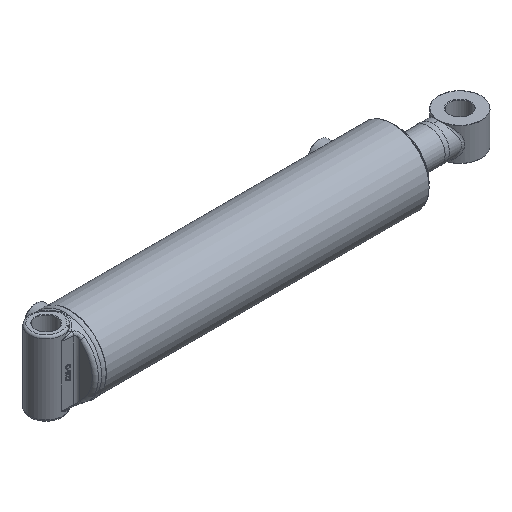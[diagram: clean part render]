
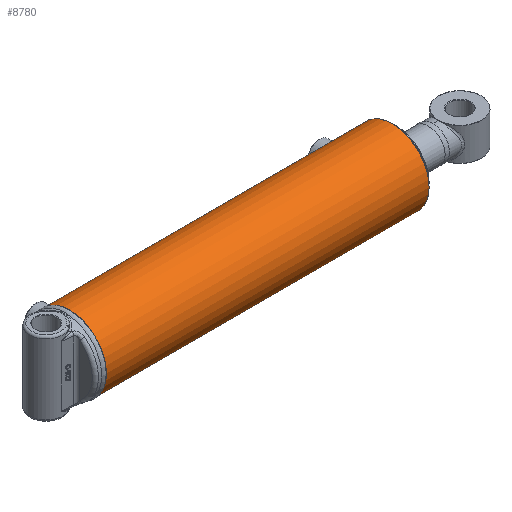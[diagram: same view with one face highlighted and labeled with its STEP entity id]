
A CAD part, isometric view. The second image highlights one B-rep face of the part: STEP entity #8780.
In plain terms, the highlighted cylindrical face has radius 56.356 mm (diameter 112.712 mm), a full revolution.
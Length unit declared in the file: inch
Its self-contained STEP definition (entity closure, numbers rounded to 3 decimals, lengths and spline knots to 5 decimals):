
#808=B_SPLINE_CURVE_WITH_KNOTS('',3,(#13133,#13134,#13135,#13136,#13137,
#13138,#13139,#13140,#13141,#13142),.UNSPECIFIED.,.F.,.F.,(4,2,2,2,4),(0.,
0.23942,0.47883,0.71824,0.95766),
 .UNSPECIFIED.);
#809=B_SPLINE_CURVE_WITH_KNOTS('',3,(#13143,#13144,#13145,#13146,#13147,
#13148,#13149,#13150,#13151,#13152,#13153,#13154,#13155,#13156,#13157,#13158,
#13159,#13160,#13161,#13162,#13163,#13164,#13165,#13166,#13167,#13168),
 .UNSPECIFIED.,.F.,.F.,(4,2,2,2,2,2,2,2,2,2,2,2,4),(0.95766,1.19707,
1.43649,1.6759,1.91532,2.15473,2.39415,
2.63356,2.87297,3.11239,3.3518,3.59122,
3.83063),.UNSPECIFIED.);
#810=B_SPLINE_CURVE_WITH_KNOTS('',3,(#13173,#13174,#13175,#13176,#13177,
#13178,#13179,#13180,#13181,#13182),.UNSPECIFIED.,.F.,.F.,(4,2,2,2,4),(0.,
0.23942,0.47883,0.71824,0.95766),
 .UNSPECIFIED.);
#811=B_SPLINE_CURVE_WITH_KNOTS('',3,(#13183,#13184,#13185,#13186,#13187,
#13188,#13189,#13190,#13191,#13192,#13193,#13194,#13195,#13196,#13197,#13198,
#13199,#13200,#13201,#13202,#13203,#13204,#13205,#13206,#13207,#13208),
 .UNSPECIFIED.,.F.,.F.,(4,2,2,2,2,2,2,2,2,2,2,2,4),(0.95766,1.19707,
1.43649,1.6759,1.91532,2.15473,2.39415,
2.63356,2.87297,3.11239,3.3518,3.59122,
3.83063),.UNSPECIFIED.);
#1096=FACE_BOUND('',#2595,.T.);
#1097=FACE_BOUND('',#2596,.T.);
#1352=LINE('',#13244,#1693);
#1693=VECTOR('',#10661,2.21875);
#2031=CYLINDRICAL_SURFACE('',#9525,2.21875);
#2119=FACE_OUTER_BOUND('',#2594,.T.);
#2594=EDGE_LOOP('',(#6139,#6140,#6141,#6142,#6143,#6144));
#2595=EDGE_LOOP('',(#6145,#6146));
#2596=EDGE_LOOP('',(#6147,#6148));
#3157=CIRCLE('',#9522,2.21875);
#3159=CIRCLE('',#9524,2.21875);
#3160=CIRCLE('',#9526,2.21875);
#3161=CIRCLE('',#9527,2.21875);
#3801=VERTEX_POINT('',#13130);
#3802=VERTEX_POINT('',#13132);
#3803=VERTEX_POINT('',#13170);
#3804=VERTEX_POINT('',#13172);
#3815=VERTEX_POINT('',#13237);
#3816=VERTEX_POINT('',#13238);
#3817=VERTEX_POINT('',#13243);
#3818=VERTEX_POINT('',#13245);
#4736=EDGE_CURVE('',#3802,#3801,#808,.T.);
#4737=EDGE_CURVE('',#3801,#3802,#809,.T.);
#4739=EDGE_CURVE('',#3804,#3803,#810,.T.);
#4740=EDGE_CURVE('',#3803,#3804,#811,.T.);
#4754=EDGE_CURVE('',#3815,#3816,#3157,.T.);
#4756=EDGE_CURVE('',#3816,#3815,#3159,.T.);
#4757=EDGE_CURVE('',#3815,#3817,#1352,.T.);
#4758=EDGE_CURVE('',#3818,#3817,#3160,.T.);
#4759=EDGE_CURVE('',#3817,#3818,#3161,.T.);
#6139=ORIENTED_EDGE('',*,*,#4754,.F.);
#6140=ORIENTED_EDGE('',*,*,#4757,.T.);
#6141=ORIENTED_EDGE('',*,*,#4758,.F.);
#6142=ORIENTED_EDGE('',*,*,#4759,.F.);
#6143=ORIENTED_EDGE('',*,*,#4757,.F.);
#6144=ORIENTED_EDGE('',*,*,#4756,.F.);
#6145=ORIENTED_EDGE('',*,*,#4736,.T.);
#6146=ORIENTED_EDGE('',*,*,#4737,.T.);
#6147=ORIENTED_EDGE('',*,*,#4739,.T.);
#6148=ORIENTED_EDGE('',*,*,#4740,.T.);
#8780=ADVANCED_FACE('',(#2119,#1096,#1097),#2031,.T.);
#9522=AXIS2_PLACEMENT_3D('',#13239,#10653,#10654);
#9524=AXIS2_PLACEMENT_3D('',#13241,#10657,#10658);
#9525=AXIS2_PLACEMENT_3D('',#13242,#10659,#10660);
#9526=AXIS2_PLACEMENT_3D('',#13246,#10662,#10663);
#9527=AXIS2_PLACEMENT_3D('',#13247,#10664,#10665);
#10653=DIRECTION('center_axis',(1.,0.,0.));
#10654=DIRECTION('ref_axis',(0.,-1.,0.));
#10657=DIRECTION('center_axis',(1.,0.,0.));
#10658=DIRECTION('ref_axis',(0.,-1.,0.));
#10659=DIRECTION('center_axis',(1.,0.,0.));
#10660=DIRECTION('ref_axis',(0.,-1.,0.));
#10661=DIRECTION('',(-1.,0.,0.));
#10662=DIRECTION('center_axis',(-1.,0.,0.));
#10663=DIRECTION('ref_axis',(0.,-1.,0.));
#10664=DIRECTION('center_axis',(-1.,0.,0.));
#10665=DIRECTION('ref_axis',(0.,-1.,0.));
#13130=CARTESIAN_POINT('',(0.75,0.,2.21875));
#13132=CARTESIAN_POINT('',(1.,-0.25,2.20462));
#13133=CARTESIAN_POINT('Ctrl Pts',(1.,-0.25,2.20462));
#13134=CARTESIAN_POINT('Ctrl Pts',(0.96858,-0.25,2.20462));
#13135=CARTESIAN_POINT('Ctrl Pts',(0.93509,-0.24372,
2.20536));
#13136=CARTESIAN_POINT('Ctrl Pts',(0.8735,-0.21819,
2.20803));
#13137=CARTESIAN_POINT('Ctrl Pts',(0.8454,-0.19896,
2.20992));
#13138=CARTESIAN_POINT('Ctrl Pts',(0.80104,-0.1546,
2.21347));
#13139=CARTESIAN_POINT('Ctrl Pts',(0.78181,-0.1265,
2.21536));
#13140=CARTESIAN_POINT('Ctrl Pts',(0.75628,-0.06491,
2.21801));
#13141=CARTESIAN_POINT('Ctrl Pts',(0.75,-0.03142,2.21875));
#13142=CARTESIAN_POINT('Ctrl Pts',(0.75,0.,2.21875));
#13143=CARTESIAN_POINT('Ctrl Pts',(0.75,0.,2.21875));
#13144=CARTESIAN_POINT('Ctrl Pts',(0.75,0.03142,2.21875));
#13145=CARTESIAN_POINT('Ctrl Pts',(0.75628,0.06491,
2.21801));
#13146=CARTESIAN_POINT('Ctrl Pts',(0.78181,0.1265,
2.21536));
#13147=CARTESIAN_POINT('Ctrl Pts',(0.80104,0.1546,
2.21347));
#13148=CARTESIAN_POINT('Ctrl Pts',(0.8454,0.19896,
2.20992));
#13149=CARTESIAN_POINT('Ctrl Pts',(0.8735,0.21819,2.20803));
#13150=CARTESIAN_POINT('Ctrl Pts',(0.93509,0.24372,
2.20536));
#13151=CARTESIAN_POINT('Ctrl Pts',(0.96858,0.25,2.20462));
#13152=CARTESIAN_POINT('Ctrl Pts',(1.03142,0.25,2.20462));
#13153=CARTESIAN_POINT('Ctrl Pts',(1.06491,0.24372,2.20536));
#13154=CARTESIAN_POINT('Ctrl Pts',(1.1265,0.21819,2.20803));
#13155=CARTESIAN_POINT('Ctrl Pts',(1.1546,0.19896,2.20992));
#13156=CARTESIAN_POINT('Ctrl Pts',(1.19896,0.1546,2.21347));
#13157=CARTESIAN_POINT('Ctrl Pts',(1.21819,0.1265,2.21536));
#13158=CARTESIAN_POINT('Ctrl Pts',(1.24372,0.06491,
2.21801));
#13159=CARTESIAN_POINT('Ctrl Pts',(1.25,0.03142,2.21875));
#13160=CARTESIAN_POINT('Ctrl Pts',(1.25,-0.03142,2.21875));
#13161=CARTESIAN_POINT('Ctrl Pts',(1.24372,-0.06491,
2.21801));
#13162=CARTESIAN_POINT('Ctrl Pts',(1.21819,-0.1265,
2.21536));
#13163=CARTESIAN_POINT('Ctrl Pts',(1.19896,-0.1546,
2.21347));
#13164=CARTESIAN_POINT('Ctrl Pts',(1.1546,-0.19896,
2.20992));
#13165=CARTESIAN_POINT('Ctrl Pts',(1.1265,-0.21819,2.20803));
#13166=CARTESIAN_POINT('Ctrl Pts',(1.06491,-0.24372,2.20536));
#13167=CARTESIAN_POINT('Ctrl Pts',(1.03142,-0.25,2.20462));
#13168=CARTESIAN_POINT('Ctrl Pts',(1.,-0.25,2.20462));
#13170=CARTESIAN_POINT('',(17.87,0.,2.21875));
#13172=CARTESIAN_POINT('',(18.12,-0.25,2.20462));
#13173=CARTESIAN_POINT('Ctrl Pts',(18.12,-0.25,2.20462));
#13174=CARTESIAN_POINT('Ctrl Pts',(18.08858,-0.25,
2.20462));
#13175=CARTESIAN_POINT('Ctrl Pts',(18.05509,-0.24372,
2.20536));
#13176=CARTESIAN_POINT('Ctrl Pts',(17.9935,-0.21819,
2.20803));
#13177=CARTESIAN_POINT('Ctrl Pts',(17.9654,-0.19896,2.20992));
#13178=CARTESIAN_POINT('Ctrl Pts',(17.92104,-0.1546,
2.21347));
#13179=CARTESIAN_POINT('Ctrl Pts',(17.90181,-0.1265,
2.21536));
#13180=CARTESIAN_POINT('Ctrl Pts',(17.87628,-0.06491,
2.21801));
#13181=CARTESIAN_POINT('Ctrl Pts',(17.87,-0.03142,2.21875));
#13182=CARTESIAN_POINT('Ctrl Pts',(17.87,0.,2.21875));
#13183=CARTESIAN_POINT('Ctrl Pts',(17.87,0.,2.21875));
#13184=CARTESIAN_POINT('Ctrl Pts',(17.87,0.03142,2.21875));
#13185=CARTESIAN_POINT('Ctrl Pts',(17.87628,0.06491,
2.21801));
#13186=CARTESIAN_POINT('Ctrl Pts',(17.90181,0.1265,2.21536));
#13187=CARTESIAN_POINT('Ctrl Pts',(17.92104,0.1546,2.21347));
#13188=CARTESIAN_POINT('Ctrl Pts',(17.9654,0.19896,2.20992));
#13189=CARTESIAN_POINT('Ctrl Pts',(17.9935,0.21819,2.20803));
#13190=CARTESIAN_POINT('Ctrl Pts',(18.05509,0.24372,2.20536));
#13191=CARTESIAN_POINT('Ctrl Pts',(18.08858,0.25,2.20462));
#13192=CARTESIAN_POINT('Ctrl Pts',(18.15142,0.25,2.20462));
#13193=CARTESIAN_POINT('Ctrl Pts',(18.18491,0.24372,2.20536));
#13194=CARTESIAN_POINT('Ctrl Pts',(18.2465,0.21819,2.20803));
#13195=CARTESIAN_POINT('Ctrl Pts',(18.2746,0.19896,2.20992));
#13196=CARTESIAN_POINT('Ctrl Pts',(18.31896,0.1546,2.21347));
#13197=CARTESIAN_POINT('Ctrl Pts',(18.33819,0.1265,2.21536));
#13198=CARTESIAN_POINT('Ctrl Pts',(18.36372,0.06491,2.21801));
#13199=CARTESIAN_POINT('Ctrl Pts',(18.37,0.03142,2.21875));
#13200=CARTESIAN_POINT('Ctrl Pts',(18.37,-0.03142,2.21875));
#13201=CARTESIAN_POINT('Ctrl Pts',(18.36372,-0.06491,
2.21801));
#13202=CARTESIAN_POINT('Ctrl Pts',(18.33819,-0.1265,
2.21536));
#13203=CARTESIAN_POINT('Ctrl Pts',(18.31896,-0.1546,
2.21347));
#13204=CARTESIAN_POINT('Ctrl Pts',(18.2746,-0.19896,2.20992));
#13205=CARTESIAN_POINT('Ctrl Pts',(18.2465,-0.21819,
2.20803));
#13206=CARTESIAN_POINT('Ctrl Pts',(18.18491,-0.24372,
2.20536));
#13207=CARTESIAN_POINT('Ctrl Pts',(18.15142,-0.25,
2.20462));
#13208=CARTESIAN_POINT('Ctrl Pts',(18.12,-0.25,2.20462));
#13237=CARTESIAN_POINT('',(19.61,2.21875,0.));
#13238=CARTESIAN_POINT('',(19.61,0.,-2.21875));
#13239=CARTESIAN_POINT('Origin',(19.61,0.,0.));
#13241=CARTESIAN_POINT('Origin',(19.61,0.,0.));
#13242=CARTESIAN_POINT('Origin',(0.,0.,0.));
#13243=CARTESIAN_POINT('',(0.11186,2.21875,0.));
#13244=CARTESIAN_POINT('',(0.,2.21875,0.));
#13245=CARTESIAN_POINT('',(0.11186,0.,2.21875));
#13246=CARTESIAN_POINT('Origin',(0.11186,0.,0.));
#13247=CARTESIAN_POINT('Origin',(0.11186,0.,0.));
